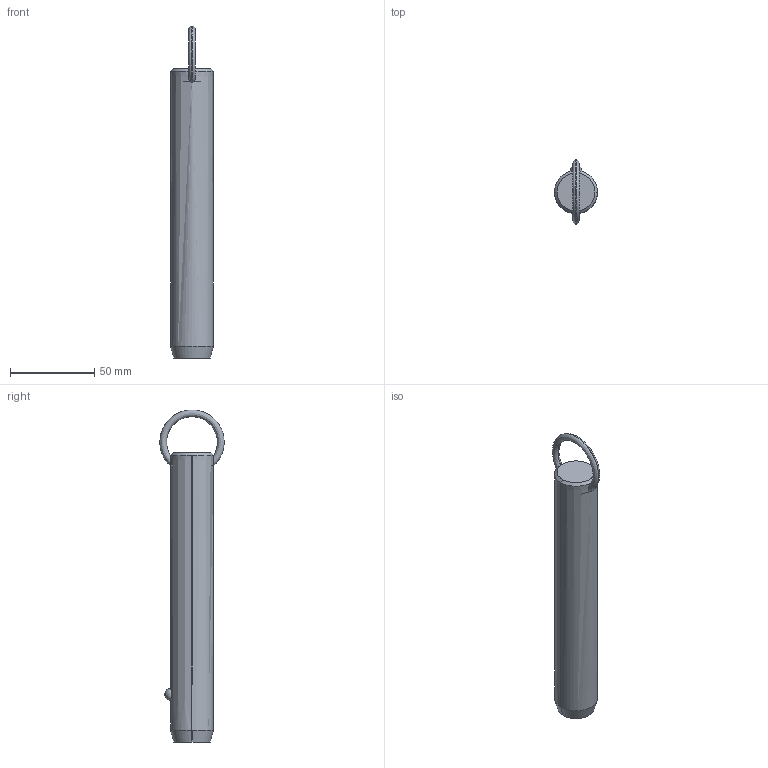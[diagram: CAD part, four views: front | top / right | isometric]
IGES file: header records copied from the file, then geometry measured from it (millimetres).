
Start section: SolidWorks IGES file using analytic representation for surfaces
Global section: file name: C:\Users\liam_\OneDrive\Documents\WORK\Work for WixRoyd\Job Files\J-00019 - Matt Davis CAD Checking\04. CAD Drawings\automotion20190605\P1250.2_v2\P1250.2_v2_20190729_IGES\P1250.100-500.igs; native system: SolidWorks 2017; preprocessor: SolidWorks 2017; author: liam_; date: 190730.174118; units: millimetre
Bounding box: 25.4 x 38.07 x 196.8 mm (x, y, z)
Surface area: 15450.4 mm2 (no closed solid volume)
Topology: 0 solids, 0 shells, 12 faces, 298 edges, 296 vertices
Faces by surface type: revolution 8, bspline 4
